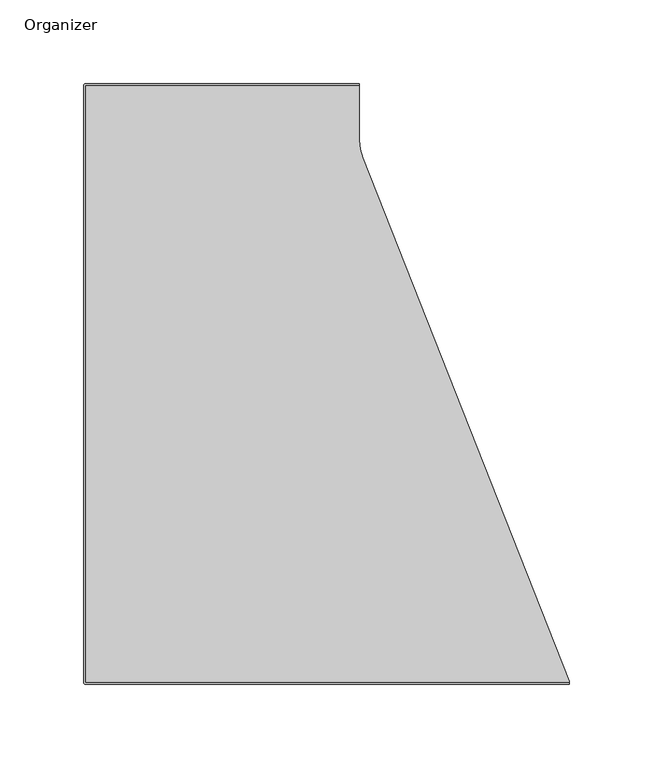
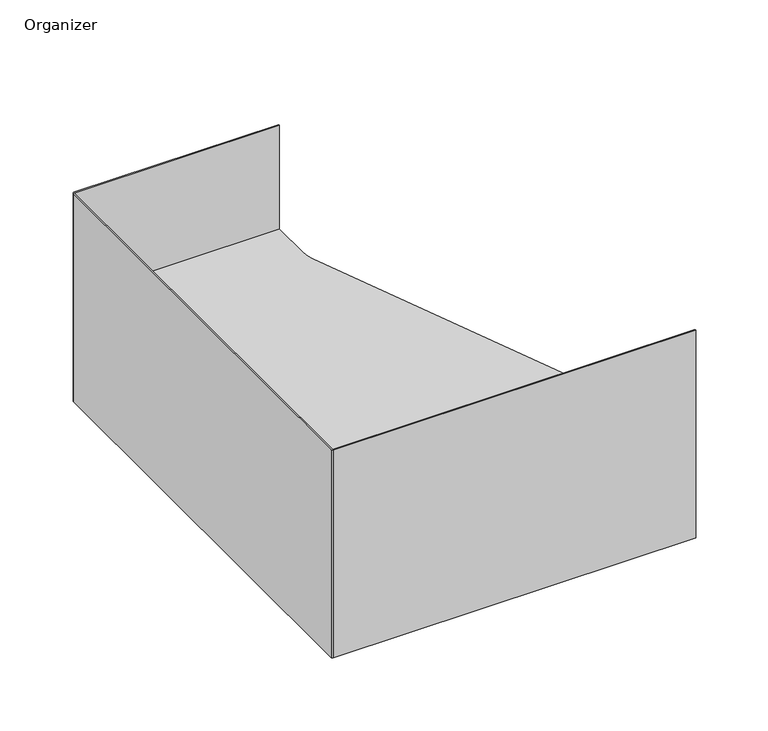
"""IFC4 building model written with IfcOpenShell, lengths in millimetres: furniture geometry, Steelcase Turnstone - Bivi - Accessories - Organizer : Organizer."""

from ifc_helpers import new_model, si_unit, point, frame, frame_2d, origin, place, context, project, spatial, polyline, circle_curve, trimmed, segment, composite_curve, outline, extrude, source, transform, mapped, element, save
from ifc_brep_helpers import plane_surface, revolved_surface, advanced_brep


def organizer_70f5f413(model_context):
    return source(origin(), model_context, "Body", "SolidModel", [
        advanced_brep(
        [(162.1539543, 411.4800046, 974.2678), (-1.2192, 411.4800046, 974.2678), (-1.2192, 55.1180045, 974.2678), (287.401, 55.1180045, 974.2678), (287.401, 56.0086855, 974.2678), (164.1249708, 368.3897688, 974.2678), (162.1539543, 378.7537163, 974.2678), (162.1539543, 378.7537163, 973.3788), (164.1249708, 368.3897688, 973.3788), (287.401, 56.0086855, 973.3788), (-1.2192, 56.0086855, 973.3788), (-1.2192, 410.5910046, 973.3788), (162.1539543, 410.5910046, 973.3788), (162.1539543, 411.4800046, 960.6788), (-1.2192, 411.4800046, 960.6788), (-1.2192, 410.5910046, 960.6788), (-1.2192, 56.0086855, 960.6788), (-1.2192, 55.1180045, 960.6788), (287.401, 55.1180045, 960.6788), (287.401, 56.0086855, 960.6788), (162.1539543, 410.5910046, 960.6788)],
        [
            (0, 1),
            (1, 2),
            (2, 3),
            (3, 4),
            (4, 5),
            (5, 6, circle_curve(frame((190.3871821, 378.7537163, 974.2678), z_axis=(0.0, 0.0, -1.0), x_axis=(1.0, 0.0, 0.0)), 28.2332278)),
            (6, 0),
            (7, 8, circle_curve(frame((190.3871821, 378.7537163, 973.3788), z_axis=(0.0, 0.0, 1.0), x_axis=(1.0, 0.0, 0.0)), 28.2332278)),
            (8, 9),
            (9, 10),
            (10, 11),
            (11, 12),
            (12, 7),
            (0, 13),
            (13, 14),
            (14, 1),
            (14, 15),
            (15, 11),
            (10, 16),
            (16, 17),
            (17, 2),
            (17, 18),
            (18, 3),
            (18, 19),
            (19, 9),
            (9, 4),
            (8, 5),
            (7, 6),
            (12, 20),
            (20, 13),
            (20, 15),
            (16, 19),
        ],
        [
            plane_surface(frame((-1.2192, 411.4800046, 974.2678), z_axis=(0.0, 0.0, 1.0), x_axis=(-1.0, 0.0, 0.0))),
            plane_surface(frame((-1.2192, 411.4800046, 973.3788), z_axis=(0.0, 0.0, -1.0), x_axis=(1.0, 0.0, 0.0))),
            plane_surface(frame((162.1539543, 411.4800046, 974.2678), z_axis=(0.0, 1.0, 0.0), x_axis=(0.0, 0.0, -1.0))),
            plane_surface(frame((-1.2192, 411.4800046, 974.2678), z_axis=(-1.0, 0.0, 0.0), x_axis=(0.0, 0.0, -1.0))),
            plane_surface(frame((-1.2192, 55.1180045, 974.2678), z_axis=(0.0, -1.0, 0.0), x_axis=(0.0, 0.0, -1.0))),
            plane_surface(frame((287.401, 55.1180045, 974.2678), z_axis=(1.0, 0.0, 0.0), x_axis=(0.0, 0.0, -1.0))),
            plane_surface(frame((287.401, 56.0086855, 974.2678), z_axis=(0.930188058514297, 0.3670833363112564, 0.0), x_axis=(0.0, 0.0, -1.0))),
            revolved_surface(polyline([(218.6204099, 378.7537163, 973.3788), (218.6204099, 378.7537163, 974.2678)]), (190.3871821, 378.7537163, 973.3788), (0.0, 0.0, -1.0)),
            plane_surface(frame((162.1539543, 378.7537163, 974.2678), z_axis=(1.0, 0.0, 0.0), x_axis=(0.0, 0.0, -1.0))),
            plane_surface(frame((-1.2192, 411.4800046, 960.6788), z_axis=(0.0, 0.0, -1.0), x_axis=(1.0, 0.0, 0.0))),
            plane_surface(frame((-1.2192, 410.5910046, 973.3788), z_axis=(0.0, -1.0, 0.0), x_axis=(0.0, 0.0, -1.0))),
            plane_surface(frame((287.401, 56.0086855, 973.3788), z_axis=(0.0, 1.0, 0.0), x_axis=(0.0, 0.0, -1.0))),
        ],
        [
            (0, [[1, 2, 3, 4, 5, 6, 7]]),
            (1, [[8, 9, 10, 11, 12, 13]]),
            (2, [[-1, 14, 15, 16]]),
            (3, [[-2, -16, 17, 18, -11, 19, 20, 21]]),
            (4, [[-3, -21, 22, 23]]),
            (5, [[-4, -23, 24, 25, 26]]),
            (6, [[-5, -26, -9, 27]]),
            (7, [[-6, -27, -8, 28]]),
            (8, [[-14, -7, -28, -13, 29, 30]]),
            (9, [[-30, 31, -17, -15]]),
            (9, [[32, -24, -22, -20]]),
            (10, [[-31, -29, -12, -18]]),
            (11, [[-32, -19, -10, -25]]),
        ],
    ),
        extrude(outline(composite_curve([segment(polyline([(162.1539543, 411.4800046), (-1.2192, 411.4800046), (-1.2192, 55.1180045), (287.401, 55.1180045), (287.401, 54.2290046), (-1.0850496, 54.2290046)]), True, "CONTINUOUS"), segment(trimmed(circle_curve(frame_2d((-1.0850496, 55.302955)), 1.0739504), [point((-1.0850496, 54.2290046))], [point((-2.159, 55.302955))], False, "CARTESIAN"), True, "CONTINUOUS"), segment(polyline([(-2.159, 55.302955), (-2.159, 411.2658124)]), True, "CONTINUOUS"), segment(trimmed(circle_curve(frame_2d((-1.0558078, 411.2658124)), 1.1031922), [point((-2.159, 411.2658124))], [point((-1.0558078, 412.3690046))], False, "CARTESIAN"), True, "CONTINUOUS"), segment(polyline([(-1.0558078, 412.3690046), (162.1539543, 412.3690046), (162.1539543, 411.4800046)]), True, "CONTINUOUS")], self_intersect=False)), frame((0.0, 0.0, 886.6378), z_axis=(0.0, 0.0, 1.0), x_axis=(1.0, 0.0, 0.0)), (0.0, 0.0, 1.0), 175.26),
    ])


if __name__ == "__main__":
    model = new_model("IFC4")
    model_context = context("Model", 3, world=origin())
    ifc_project = project(units=[si_unit("LENGTHUNIT", "METRE", prefix="MILLI")], contexts=[model_context])
    site = spatial("IfcSite", under=ifc_project)
    building = spatial("IfcBuilding", under=site)
    placement = place(None, origin())
    organizer_shape = organizer_70f5f413(model_context)
    element("IfcFurniture", 1, ObjectType="Steelcase Turnstone - Bivi - Accessories - Organizer : Organizer", at=placement, inside=building, context=model_context, shape_type="MappedRepresentation", body=[
        mapped(organizer_shape, transform((0.0, 0.0, 0.0), x_axis=(1.0, 0.0, 0.0), y_axis=(0.0, 1.0, 0.0), z_axis=(0.0, 0.0, 1.0))),
    ])
    save(model, "model.ifc")
